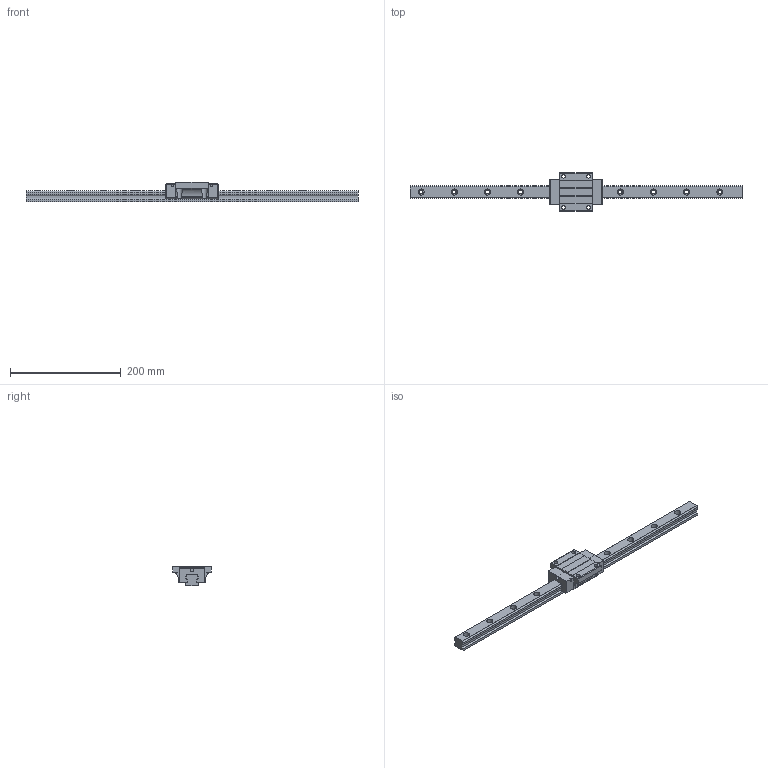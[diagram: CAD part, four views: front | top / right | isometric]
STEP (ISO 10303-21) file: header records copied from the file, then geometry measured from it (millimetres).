
FILE_DESCRIPTION (( 'STEP AP203' ), '1' );
FILE_NAME ('TRH25FN-SZ.STEP', '2024-06-26T06:26:51', ( '' ), ( '' ), 'SwSTEP 2.0', 'SolidWorks 2022', '' );
FILE_SCHEMA (( 'CONFIG_CONTROL_DESIGN' ));
Length unit declared in the file: millimetre
Products named in the file (1): TRH25FN-SZ
Bounding box: 600 x 70 x 36 mm (x, y, z)
Volume: 346281 mm3; surface area: 82992.3 mm2
Topology: 2 solids, 2 shells, 230 faces, 622 edges, 408 vertices
Faces by surface type: cylinder 130, plane 96, sphere 4
Entity records: 7857 total; most frequent: CARTESIAN_POINT 1801, DIRECTION 1276, ORIENTED_EDGE 1236, EDGE_CURVE 618, AXIS2_PLACEMENT_3D 459, VERTEX_POINT 408, VECTOR 358, LINE 358
